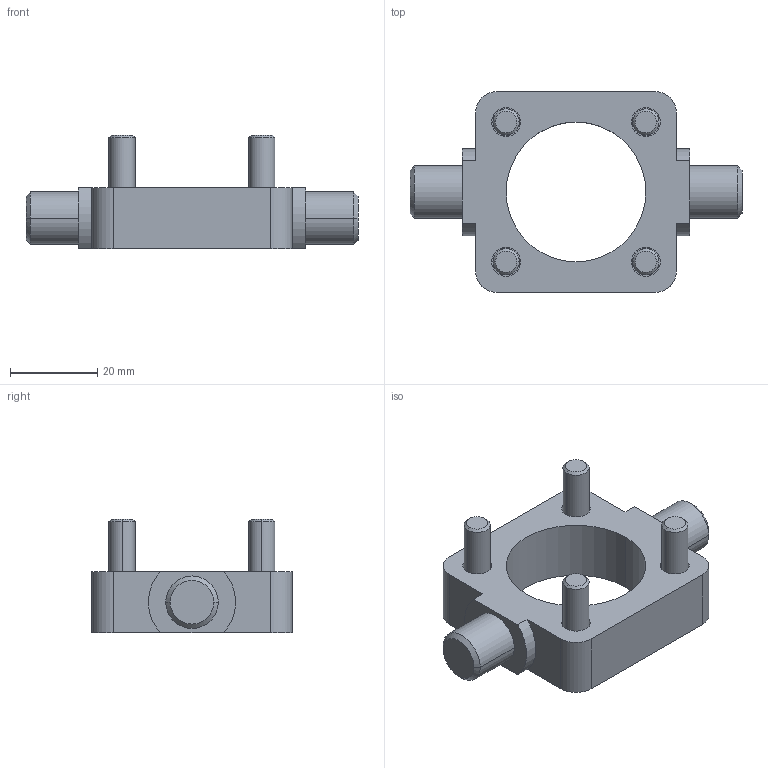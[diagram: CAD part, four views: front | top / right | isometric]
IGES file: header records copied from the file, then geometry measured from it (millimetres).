
Start section:  PTC IGES file: 1825805362\1825805362.iges
Global section: file name: 1825805362\1825805362.iges; native system: Creo Parametric by PTC Inc.; preprocessor: 2020044; author: THD3HC; organization: Unknown; date: 20231011.173916; units: millimetre
Bounding box: 76 x 46 x 26 mm (x, y, z)
Surface area: 11060.7 mm2 (no closed solid volume)
Topology: 0 solids, 0 shells, 86 faces, 372 edges, 372 vertices
Faces by surface type: revolution 58, bspline 28
